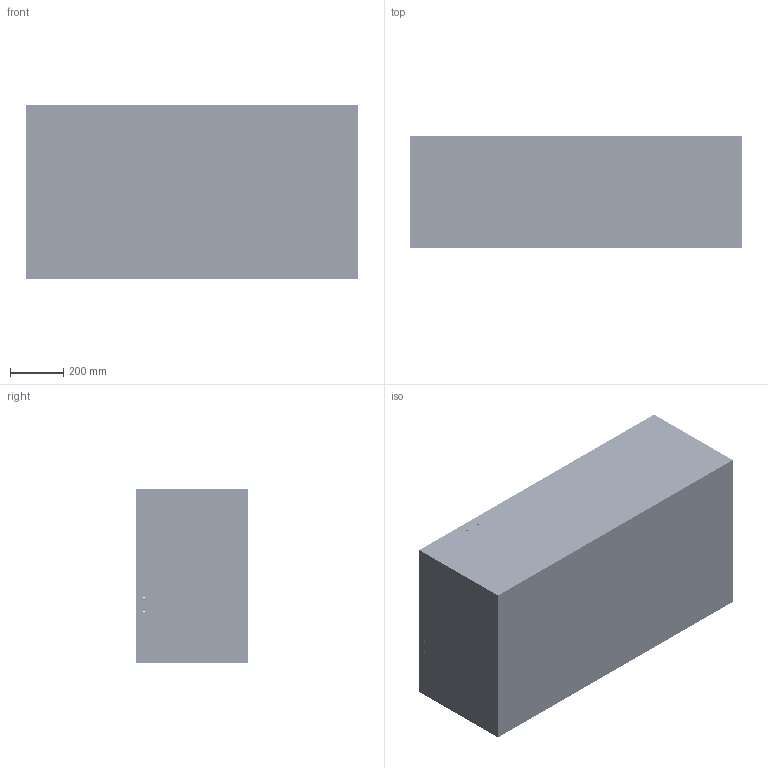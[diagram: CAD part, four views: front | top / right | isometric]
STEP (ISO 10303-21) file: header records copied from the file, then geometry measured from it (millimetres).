
FILE_DESCRIPTION (( 'STEP AP214' ), '1' );
FILE_NAME ('0550-931B-CLR OEM.STEP', '2010-05-14T16:53:13', ( ' ' ), ( ' ' ), 'SwSTEP 2.0', 'SolidWorks 2007', '' );
FILE_SCHEMA (( 'AUTOMOTIVE_DESIGN' ));
Products named in the file (1): 0550-931B-CLR OEM
Bounding box: 1251.71 x 419.86 x 654.81 mm (x, y, z)
Volume: 51673632.2 mm3; surface area: 5965742.8 mm2
Topology: 1 solids, 9 shells, 8680 faces, 21198 edges, 11798 vertices
Faces by surface type: cylinder 3914, plane 2032, bspline 1386, sphere 1156, torus 136, cone 56
Entity records: 277265 total; most frequent: CARTESIAN_POINT 98077, ORIENTED_EDGE 40164, DIRECTION 35446, EDGE_CURVE 20082, AXIS2_PLACEMENT_3D 13359, VERTEX_POINT 11708, EDGE_LOOP 8980, VECTOR 8728
